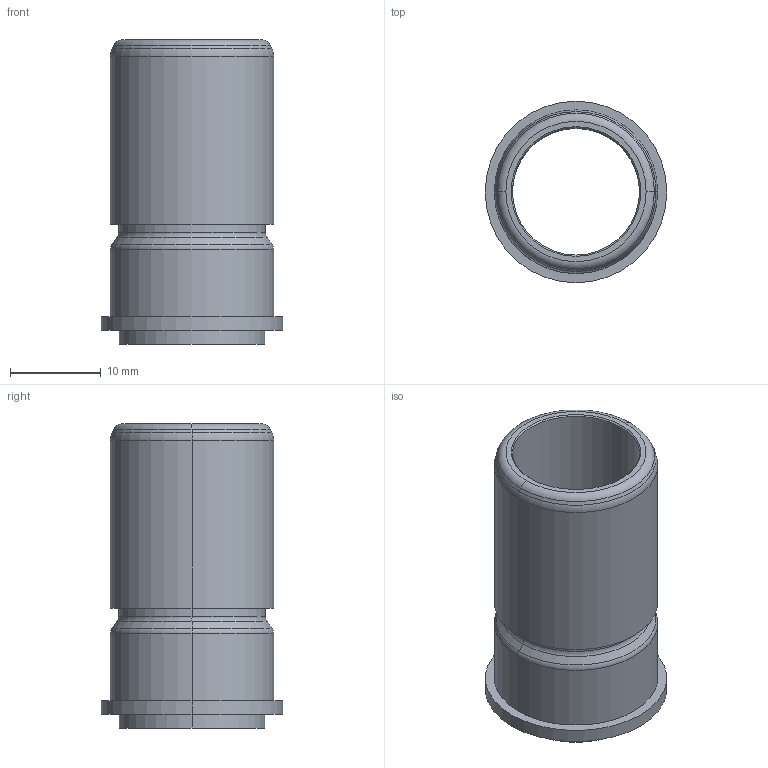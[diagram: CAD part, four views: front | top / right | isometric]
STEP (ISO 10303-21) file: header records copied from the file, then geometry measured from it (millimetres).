
FILE_DESCRIPTION((''),'2;1');
FILE_NAME('JT_1_1','2026-01-16T13:41:43',('Lenovo'),(''),'CREO PARAMETRIC BY PTC INC, 2019080','CREO PARAMETRIC BY PTC INC, 2019080','');
FILE_SCHEMA(('CONFIG_CONTROL_DESIGN'));
Length unit declared in the file: millimetre
Products named in the file (1): JT_1_1
Bounding box: 20 x 20 x 33.5 mm (x, y, z)
Volume: 3259 mm3; surface area: 3697.7 mm2
Topology: 1 solids, 1 shells, 31 faces, 63 edges, 37 vertices
Faces by surface type: cylinder 12, torus 8, cone 6, plane 5
Entity records: 864 total; most frequent: DIRECTION 170, CARTESIAN_POINT 131, ORIENTED_EDGE 126, AXIS2_PLACEMENT_3D 76, EDGE_CURVE 63, CIRCLE 45, VERTEX_POINT 37, EDGE_LOOP 36
